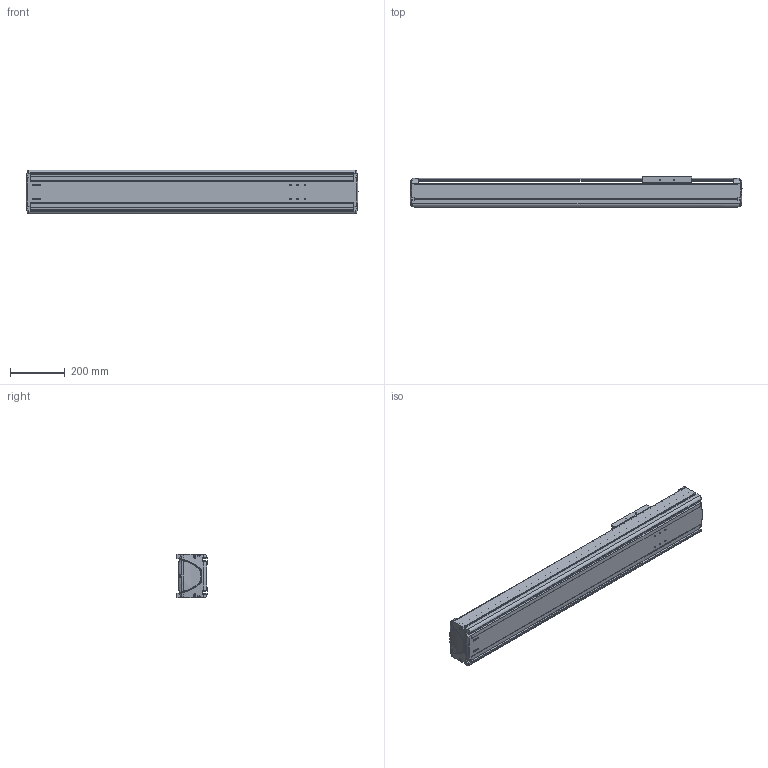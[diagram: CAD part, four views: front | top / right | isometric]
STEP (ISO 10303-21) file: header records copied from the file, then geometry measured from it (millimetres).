
FILE_DESCRIPTION((''),'2;1');
FILE_NAME('BE50G-ST-M_B-80_IGS_PRT','2017-06-18T',(' '),(''),'PRO/ENGINEER BY PARAMETRIC TECHNOLOGY CORPORATION, 2015030','PRO/ENGINEER BY PARAMETRIC TECHNOLOGY CORPORATION, 2015030','');
FILE_SCHEMA(('CONFIG_CONTROL_DESIGN'));
Length unit declared in the file: millimetre
Products named in the file (1): BE50G-ST-M_B-80_IGS_PRT
Bounding box: 1214.98 x 110 x 160 mm (x, y, z)
Volume: 5469291.3 mm3; surface area: 1858220.7 mm2
Topology: 2 solids, 81 shells, 1602 faces, 4243 edges, 2714 vertices
Faces by surface type: cylinder 688, plane 619, bspline 102, torus 87, cone 66, sphere 40
Entity records: 55025 total; most frequent: CARTESIAN_POINT 15790, ORIENTED_EDGE 8096, DIRECTION 8024, EDGE_CURVE 4206, AXIS2_PLACEMENT_3D 2984, VERTEX_POINT 2703, VECTOR 2056, LINE 2056
